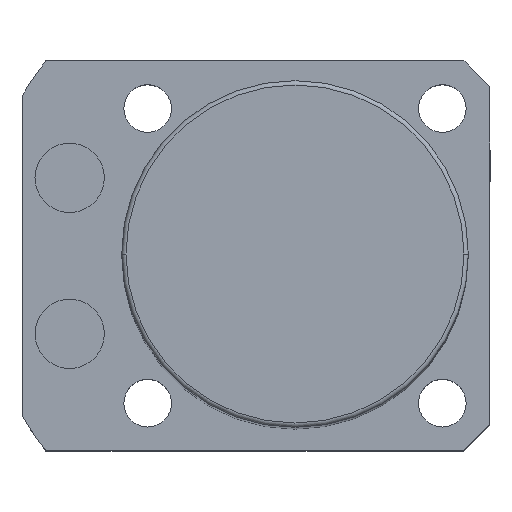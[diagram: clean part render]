
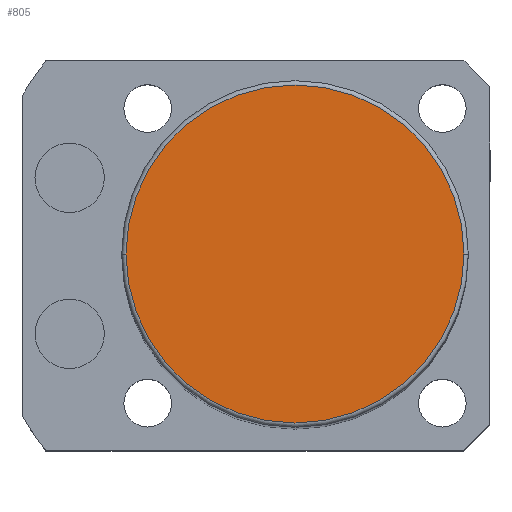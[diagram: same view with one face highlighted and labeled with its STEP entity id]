
A CAD part, top view. The second image highlights one B-rep face of the part: STEP entity #805.
In plain terms, the highlighted planar face has unit normal (0, 0, 1).
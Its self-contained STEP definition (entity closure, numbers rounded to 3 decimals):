
#38 = EDGE_LOOP ( 'NONE', ( #122, #807 ) ) ;
#122 = ORIENTED_EDGE ( 'NONE', *, *, #1500, .T. ) ;
#407 = DIRECTION ( 'NONE',  ( 0., 0., 1. ) ) ;
#587 = DIRECTION ( 'NONE',  ( 1., 0., 0. ) ) ;
#703 = AXIS2_PLACEMENT_3D ( 'NONE', #2138, #407, #587 ) ;
#805 = ADVANCED_FACE ( 'NONE', ( #2391 ), #1556, .T. ) ;
#807 = ORIENTED_EDGE ( 'NONE', *, *, #1234, .T. ) ;
#1054 = VERTEX_POINT ( 'NONE', #1852 ) ;
#1111 = CIRCLE ( 'NONE', #1563, 19.5 ) ;
#1231 = CIRCLE ( 'NONE', #2178, 19.5 ) ;
#1234 = EDGE_CURVE ( 'NONE', #2251, #1054, #1111, .T. ) ;
#1264 = CARTESIAN_POINT ( 'NONE',  ( 0., 0., 133.5 ) ) ;
#1308 = DIRECTION ( 'NONE',  ( 1., 0., 0. ) ) ;
#1423 = CARTESIAN_POINT ( 'NONE',  ( -19.5, 0., 133.5 ) ) ;
#1500 = EDGE_CURVE ( 'NONE', #1054, #2251, #1231, .T. ) ;
#1522 = CARTESIAN_POINT ( 'NONE',  ( 0., 0., 133.5 ) ) ;
#1556 = PLANE ( 'NONE',  #703 ) ;
#1563 = AXIS2_PLACEMENT_3D ( 'NONE', #1522, #1914, #1308 ) ;
#1846 = DIRECTION ( 'NONE',  ( 1., 0., 0. ) ) ;
#1852 = CARTESIAN_POINT ( 'NONE',  ( 19.5, 0., 133.5 ) ) ;
#1914 = DIRECTION ( 'NONE',  ( 0., 0., 1. ) ) ;
#2138 = CARTESIAN_POINT ( 'NONE',  ( 0., 0., 133.5 ) ) ;
#2178 = AXIS2_PLACEMENT_3D ( 'NONE', #1264, #2419, #1846 ) ;
#2251 = VERTEX_POINT ( 'NONE', #1423 ) ;
#2391 = FACE_OUTER_BOUND ( 'NONE', #38, .T. ) ;
#2419 = DIRECTION ( 'NONE',  ( 0., 0., 1. ) ) ;
